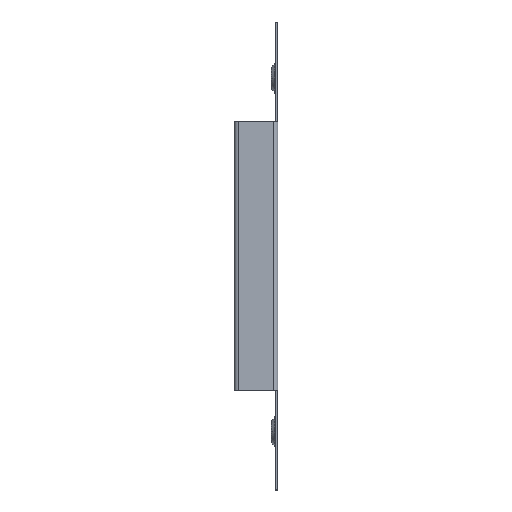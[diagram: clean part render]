
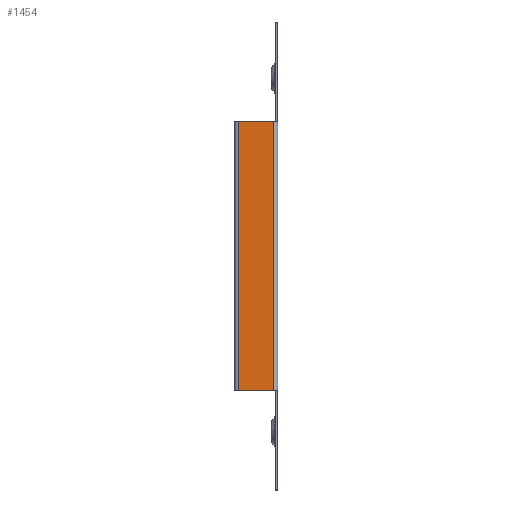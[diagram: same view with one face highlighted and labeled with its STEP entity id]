
A CAD part, left-side view. The second image highlights one B-rep face of the part: STEP entity #1454.
In plain terms, the highlighted planar face has unit normal (-1, 0, 0).
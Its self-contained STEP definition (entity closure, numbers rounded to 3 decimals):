
#201 = CARTESIAN_POINT ( 'NONE',  ( -99., 24., 0. ) ) ;
#218 = EDGE_LOOP ( 'NONE', ( #2428, #2431, #2430, #2434 ) ) ;
#219 = CARTESIAN_POINT ( 'NONE',  ( -99., 2.5, 163. ) ) ;
#286 = VERTEX_POINT ( 'NONE', #219 ) ;
#299 = VERTEX_POINT ( 'NONE', #201 ) ;
#338 = VERTEX_POINT ( 'NONE', #373 ) ;
#373 = CARTESIAN_POINT ( 'NONE',  ( -99., 24., 163. ) ) ;
#377 = VERTEX_POINT ( 'NONE', #403 ) ;
#403 = CARTESIAN_POINT ( 'NONE',  ( -99., 2.5, 0. ) ) ;
#537 = AXIS2_PLACEMENT_3D ( 'NONE', #2019, #2074, #2071 ) ;
#1010 = VECTOR ( 'NONE', #2088, 1000. ) ;
#1046 = VECTOR ( 'NONE', #2108, 1000. ) ;
#1063 = VECTOR ( 'NONE', #2118, 1000. ) ;
#1081 = VECTOR ( 'NONE', #1940, 1000. ) ;
#1421 = EDGE_CURVE ( 'NONE', #286, #377, #2084, .T. ) ;
#1425 = EDGE_CURVE ( 'NONE', #299, #377, #2098, .T. ) ;
#1428 = EDGE_CURVE ( 'NONE', #338, #299, #2109, .T. ) ;
#1433 = EDGE_CURVE ( 'NONE', #338, #286, #1932, .T. ) ;
#1454 = ADVANCED_FACE ( 'NONE', ( #2062 ), #2065, .F. ) ;
#1926 = CARTESIAN_POINT ( 'NONE',  ( -99., 0., 163. ) ) ;
#1932 = LINE ( 'NONE', #1926, #1081 ) ;
#1940 = DIRECTION ( 'NONE',  ( 0., -1., 0. ) ) ;
#2019 = CARTESIAN_POINT ( 'NONE',  ( -99., 0., 163. ) ) ;
#2062 = FACE_OUTER_BOUND ( 'NONE', #218, .T. ) ;
#2065 = PLANE ( 'NONE',  #537 ) ;
#2071 = DIRECTION ( 'NONE',  ( 0., 0., -1. ) ) ;
#2074 = DIRECTION ( 'NONE',  ( 1., 0., 0. ) ) ;
#2084 = LINE ( 'NONE', #2089, #1010 ) ;
#2088 = DIRECTION ( 'NONE',  ( 0., 0., -1. ) ) ;
#2089 = CARTESIAN_POINT ( 'NONE',  ( -99., 2.5, 163. ) ) ;
#2098 = LINE ( 'NONE', #2104, #1046 ) ;
#2104 = CARTESIAN_POINT ( 'NONE',  ( -99., 0., 0. ) ) ;
#2108 = DIRECTION ( 'NONE',  ( 0., -1., 0. ) ) ;
#2109 = LINE ( 'NONE', #2116, #1063 ) ;
#2116 = CARTESIAN_POINT ( 'NONE',  ( -99., 24., 163. ) ) ;
#2118 = DIRECTION ( 'NONE',  ( 0., 0., -1. ) ) ;
#2428 = ORIENTED_EDGE ( 'NONE', *, *, #1425, .T. ) ;
#2430 = ORIENTED_EDGE ( 'NONE', *, *, #1433, .F. ) ;
#2431 = ORIENTED_EDGE ( 'NONE', *, *, #1421, .F. ) ;
#2434 = ORIENTED_EDGE ( 'NONE', *, *, #1428, .T. ) ;
